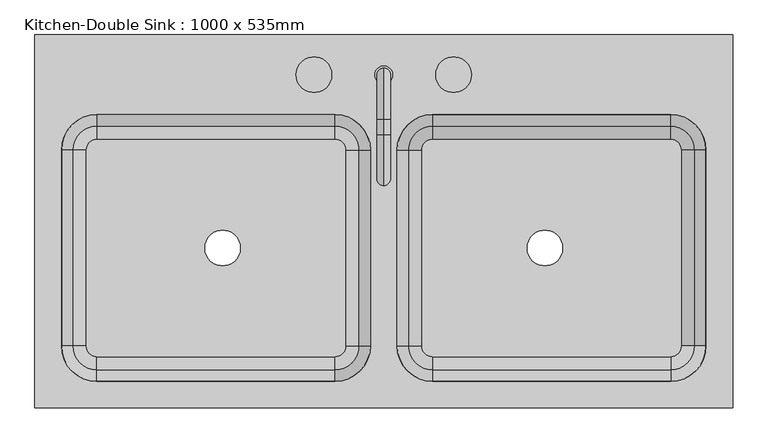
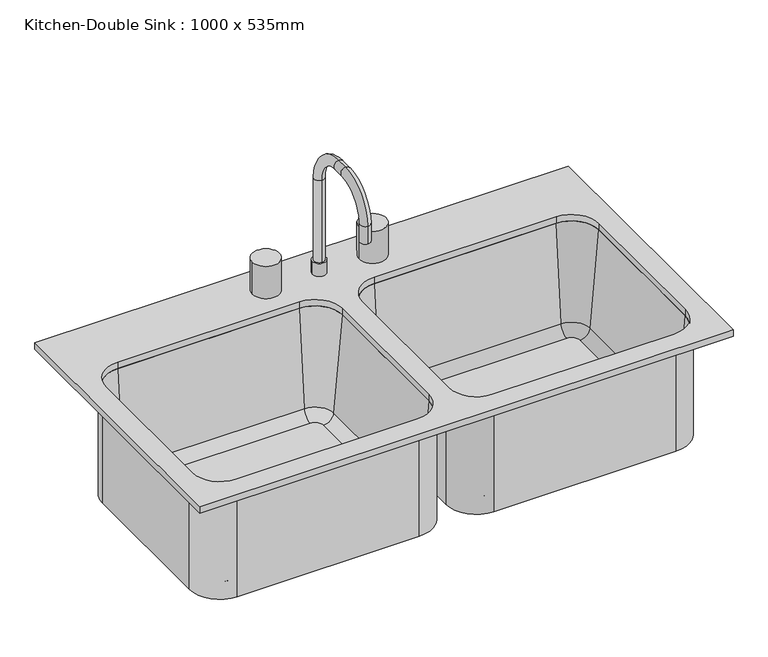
"""IFC4 building model written with IfcOpenShell, lengths in millimetres: flow terminal geometry, Kitchen-Double Sink : 1000 x 535mm."""

from ifc_helpers import new_model, si_unit, point, frame, frame_2d, origin, place, context, project, spatial, polyline, circle_curve, ellipse_curve, trimmed, segment, composite_curve, outline, extrude, source, transform, mapped, element, save
from ifc_brep_helpers import plane_surface, cylinder_surface, revolved_surface, advanced_brep


def kitchen_double_sink_1000_x_535mm_b63c062c(model_context):
    return source(origin(), model_context, "Body", "SolidModel", [
        advanced_brep(
        [(426.7892341, 120.0338193, 555.625), (85.5392406, 120.0338193, 555.625), (70.2508224, 104.7454011, 555.625), (70.2508224, -176.2545989, 555.625), (85.5392406, -191.5430171, 555.625), (426.7892406, -191.5430171, 555.625), (442.0776588, -176.2545989, 555.625), (442.0776588, 104.7454011, 555.625), (221.2392406, -35.7545989, 555.625), (272.0392406, -35.7545989, 555.625), (28.3892406, 104.7454011, 546.1), (85.5392406, 161.8954011, 546.1), (426.7892406, 161.8954011, 546.1), (483.9392406, 104.7454011, 546.1), (483.9392406, -176.2545989, 546.1), (426.7892406, -233.4045989, 546.1), (85.5392406, -233.4045989, 546.1), (28.3892406, -176.2545989, 546.1), (221.2392406, -35.7545989, 546.1), (272.0392406, -35.7545989, 546.1), (34.7392406, 104.7454011, 762.0), (85.5392406, 155.5454011, 762.0), (85.5392406, 161.8954011, 762.0), (28.3892406, 104.7454011, 762.0), (51.2733134, 104.7454011, 573.0146831), (85.5392406, 139.0113283, 573.0146831), (28.3892406, -176.2545989, 762.0), (34.7392406, -176.2545989, 762.0), (51.2733134, -176.2545989, 573.0146831), (85.5392406, -233.4045989, 762.0), (85.5392406, -227.0545989, 762.0), (85.5392406, -210.5205261, 573.0146831), (426.7892406, -233.4045989, 762.0), (426.7892406, -227.0545989, 762.0), (426.7892406, -210.5205261, 573.0146831), (483.9392406, -176.2545989, 762.0), (477.5892406, -176.2545989, 762.0), (461.0551678, -176.2545989, 573.0146831), (483.9392406, 104.7454011, 762.0), (477.5892406, 104.7454011, 762.0), (461.0551678, 104.7454011, 573.0146831), (426.7892406, 161.8954011, 762.0), (426.7892406, 155.5454011, 762.0), (426.7892406, 139.0113283, 573.0146831)],
        [
            (0, 1),
            (1, 2, circle_curve(frame((85.5392406, 104.7454011, 555.625), z_axis=(0.0, 0.0, 1.0), x_axis=(0.0, 1.0, 0.0)), 15.2884182)),
            (2, 3),
            (3, 4, circle_curve(frame((85.5392406, -176.2545989, 555.625), z_axis=(0.0, 0.0, 1.0), x_axis=(-1.0, 0.0, 0.0)), 15.2884182)),
            (4, 5),
            (5, 6, circle_curve(frame((426.7892406, -176.2545989, 555.625), z_axis=(0.0, 0.0, 1.0), x_axis=(0.0, -1.0, 0.0)), 15.2884182)),
            (6, 7),
            (7, 0, circle_curve(frame((426.7892406, 104.7454011, 555.625), z_axis=(0.0, 0.0, 1.0), x_axis=(1.0, 0.0, 0.0)), 15.2884182)),
            (8, 9, circle_curve(frame((246.6392406, -35.7545989, 555.625), z_axis=(0.0, 0.0, -1.0), x_axis=(1.0, 0.0, 0.0)), 25.4)),
            (9, 8, circle_curve(frame((246.6392406, -35.7545989, 555.625), z_axis=(0.0, 0.0, -1.0), x_axis=(1.0, 0.0, 0.0)), 25.4)),
            (10, 11, circle_curve(frame((85.5392406, 104.7454011, 546.1), z_axis=(0.0, 0.0, -1.0), x_axis=(0.0, 1.0, 0.0)), 57.15)),
            (11, 12),
            (12, 13, circle_curve(frame((426.7892406, 104.7454011, 546.1), z_axis=(0.0, 0.0, -1.0), x_axis=(1.0, 0.0, 0.0)), 57.15)),
            (13, 14),
            (14, 15, circle_curve(frame((426.7892406, -176.2545989, 546.1), z_axis=(0.0, 0.0, -1.0), x_axis=(0.0, -1.0, 0.0)), 57.15)),
            (15, 16),
            (16, 17, circle_curve(frame((85.5392406, -176.2545989, 546.1), z_axis=(0.0, 0.0, -1.0), x_axis=(-1.0, 0.0, 0.0)), 57.15)),
            (17, 10),
            (18, 19, circle_curve(frame((246.6392406, -35.7545989, 546.1), z_axis=(0.0, 0.0, 1.0), x_axis=(1.0, 0.0, 0.0)), 25.4)),
            (19, 18, circle_curve(frame((246.6392406, -35.7545989, 546.1), z_axis=(0.0, 0.0, 1.0), x_axis=(1.0, 0.0, 0.0)), 25.4)),
            (8, 18),
            (19, 9),
            (20, 21, circle_curve(frame((85.5392406, 104.7454011, 762.0), z_axis=(0.0, 0.0, -1.0), x_axis=(0.0, 1.0, 0.0)), 50.8)),
            (21, 22),
            (22, 23, circle_curve(frame((85.5392406, 104.7454011, 762.0), z_axis=(0.0, 0.0, 1.0), x_axis=(0.0, 1.0, 0.0)), 57.15)),
            (23, 20),
            (20, 24),
            (24, 25, circle_curve(frame((85.5392406, 104.7454011, 573.0146831), z_axis=(0.0, 0.0, -1.0), x_axis=(0.0, 1.0, 0.0)), 34.2659272)),
            (25, 21),
            (24, 2, circle_curve(frame((70.2508224, 104.7454011, 574.675), z_axis=(0.0, -1.0, 0.0), x_axis=(1.0, 0.0, 0.0)), 19.05)),
            (1, 25, circle_curve(frame((85.5392406, 120.0338193, 574.675), z_axis=(1.0, 0.0, 0.0), x_axis=(0.0, -1.0, 0.0)), 19.05)),
            (22, 11),
            (10, 23),
            (23, 26),
            (26, 27),
            (27, 20),
            (27, 28),
            (28, 24),
            (28, 3, circle_curve(frame((70.2508224, -176.2545989, 574.675), z_axis=(0.0, -1.0, 0.0), x_axis=(1.0, 0.0, 0.0)), 19.05)),
            (17, 26),
            (26, 29, circle_curve(frame((85.5392406, -176.2545989, 762.0), z_axis=(0.0, 0.0, 1.0), x_axis=(-1.0, 0.0, 0.0)), 57.15)),
            (29, 30),
            (30, 27, circle_curve(frame((85.5392406, -176.2545989, 762.0), z_axis=(0.0, 0.0, -1.0), x_axis=(-1.0, 0.0, 0.0)), 50.8)),
            (30, 31),
            (31, 28, circle_curve(frame((85.5392406, -176.2545989, 573.0146831), z_axis=(0.0, 0.0, -1.0), x_axis=(-1.0, 0.0, 0.0)), 34.2659272)),
            (31, 4, circle_curve(frame((85.5392406, -191.5430171, 574.675), z_axis=(1.0, 0.0, 0.0), x_axis=(0.0, 1.0, 0.0)), 19.05)),
            (16, 29),
            (29, 32),
            (32, 33),
            (33, 30),
            (33, 34),
            (34, 31),
            (34, 5, circle_curve(frame((426.7892406, -191.5430171, 574.675), z_axis=(1.0, 0.0, 0.0), x_axis=(0.0, 1.0, 0.0)), 19.05)),
            (15, 32),
            (32, 35, circle_curve(frame((426.7892406, -176.2545989, 762.0), z_axis=(0.0, 0.0, 1.0), x_axis=(0.0, -1.0, 0.0)), 57.15)),
            (35, 36),
            (36, 33, circle_curve(frame((426.7892406, -176.2545989, 762.0), z_axis=(0.0, 0.0, -1.0), x_axis=(0.0, -1.0, 0.0)), 50.8)),
            (36, 37),
            (37, 34, circle_curve(frame((426.7892406, -176.2545989, 573.0146831), z_axis=(0.0, 0.0, -1.0), x_axis=(0.0, -1.0, 0.0)), 34.2659272)),
            (37, 6, circle_curve(frame((442.0776588, -176.2545989, 574.675), z_axis=(0.0, 1.0, 0.0), x_axis=(-1.0, 0.0, 0.0)), 19.05)),
            (14, 35),
            (35, 38),
            (38, 39),
            (39, 36),
            (39, 40),
            (40, 37),
            (40, 7, circle_curve(frame((442.0776588, 104.7454011, 574.675), z_axis=(0.0, 1.0, 0.0), x_axis=(-1.0, 0.0, 0.0)), 19.05)),
            (13, 38),
            (38, 41, circle_curve(frame((426.7892406, 104.7454011, 762.0), z_axis=(0.0, 0.0, 1.0), x_axis=(1.0, 0.0, 0.0)), 57.15)),
            (41, 42),
            (42, 39, circle_curve(frame((426.7892406, 104.7454011, 762.0), z_axis=(0.0, 0.0, -1.0), x_axis=(1.0, 0.0, 0.0)), 50.8)),
            (42, 43),
            (43, 40, circle_curve(frame((426.7892406, 104.7454011, 573.0146831), z_axis=(0.0, 0.0, -1.0), x_axis=(1.0, 0.0, 0.0)), 34.2659272)),
            (43, 0, circle_curve(frame((426.7892406, 120.0338193, 574.675), z_axis=(-1.0, 0.0, 0.0), x_axis=(0.0, -1.0, 0.0)), 19.05)),
            (12, 41),
            (21, 42),
            (41, 22),
            (25, 43),
        ],
        [
            plane_surface(frame((85.5392406, 120.0338193, 555.625), z_axis=(0.0, 0.0, 1.0), x_axis=(-1.0, 0.0, 0.0))),
            plane_surface(frame((85.5392406, 120.0338193, 546.1), z_axis=(0.0, 0.0, -1.0), x_axis=(1.0, 0.0, 0.0))),
            revolved_surface(polyline([(272.03924059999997, -35.7545989, 546.1), (272.03924059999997, -35.7545989, 555.625)]), (246.6392406, -35.7545989, 0.0), (0.0, 0.0, -1.0)),
            plane_surface(frame((85.5392406, 104.7454011, 762.0), z_axis=(0.0, 0.0, 1.0), x_axis=(0.0, 1.0, 0.0))),
            revolved_surface(polyline([(85.5392406, 155.5454011, 762.0), (85.5392406, 139.0113283, 573.0146831)]), (85.5392406, 104.7454011, 0.0), (0.0, 0.0, 1.0)),
            revolved_surface(trimmed(ellipse_curve(frame((85.5392406, 120.0338193, 574.675), z_axis=(-1.0, 0.0, 0.0), x_axis=(0.0, -1.0, 0.0)), 19.05, 19.05), [point((85.5392406, 139.0113283, 573.0146831))], [point((85.5392406, 120.0338193, 555.625))], True, "CARTESIAN"), (85.5392406, 104.7454011, 0.0), (0.0, 0.0, 1.0)),
            cylinder_surface(frame((85.5392406, 104.7454011, 0.0), z_axis=(0.0, 0.0, 1.0), x_axis=(0.0, 1.0, 0.0)), 57.15),
            plane_surface(frame((28.3892406, 104.7454011, 762.0), z_axis=(0.0, 0.0, 1.0), x_axis=(0.0, -1.0, 0.0))),
            plane_surface(frame((34.7392406, 104.7454011, 762.0), z_axis=(0.996194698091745, 0.0, 0.08715574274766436), x_axis=(0.0, -1.0, 0.0))),
            revolved_surface(polyline([(89.3008224, -176.25459890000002, 574.675), (89.3008224, 104.7454011, 574.675)]), (70.2508224, 104.7454011, 574.675), (0.0, -1.0, 0.0)),
            plane_surface(frame((28.3892406, 104.7454011, 546.1), z_axis=(-1.0, 0.0, 0.0), x_axis=(0.0, -1.0, 0.0))),
            plane_surface(frame((85.5392406, -176.2545989, 762.0), z_axis=(0.0, 0.0, 1.0), x_axis=(-1.0, 0.0, 0.0))),
            revolved_surface(polyline([(34.7392406, -176.2545989, 762.0), (51.2733134, -176.2545989, 573.0146831)]), (85.5392406, -176.2545989, 0.0), (0.0, 0.0, 1.0)),
            revolved_surface(trimmed(ellipse_curve(frame((70.2508224, -176.2545989, 574.675), z_axis=(0.0, -1.0, 0.0), x_axis=(1.0, 0.0, 0.0)), 19.05, 19.05), [point((51.2733134, -176.2545989, 573.0146831))], [point((70.2508224, -176.2545989, 555.625))], True, "CARTESIAN"), (85.5392406, -176.2545989, 0.0), (0.0, 0.0, 1.0)),
            cylinder_surface(frame((85.5392406, -176.2545989, 0.0), z_axis=(0.0, 0.0, 1.0), x_axis=(-1.0, 0.0, 0.0)), 57.15),
            plane_surface(frame((85.5392406, -233.4045989, 762.0), z_axis=(0.0, 0.0, 1.0), x_axis=(1.0, 0.0, 0.0))),
            plane_surface(frame((85.5392406, -227.0545989, 762.0), z_axis=(0.0, 0.996194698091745, 0.08715574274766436), x_axis=(1.0, 0.0, 0.0))),
            revolved_surface(polyline([(426.78924059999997, -172.49301709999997, 574.675), (85.5392406, -172.49301709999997, 574.675)]), (85.5392406, -191.5430171, 574.675), (1.0, 0.0, 0.0)),
            plane_surface(frame((85.5392406, -233.4045989, 546.1), z_axis=(0.0, -1.0, 0.0), x_axis=(1.0, 0.0, 0.0))),
            plane_surface(frame((426.7892406, -176.2545989, 762.0), z_axis=(0.0, 0.0, 1.0), x_axis=(0.0, -1.0, 0.0))),
            revolved_surface(polyline([(426.7892406, -227.0545989, 762.0), (426.7892406, -210.5205261, 573.0146831)]), (426.7892406, -176.2545989, 0.0), (0.0, 0.0, 1.0)),
            revolved_surface(trimmed(ellipse_curve(frame((426.7892406, -191.5430171, 574.675), z_axis=(1.0, 0.0, 0.0), x_axis=(0.0, 1.0, 0.0)), 19.05, 19.05), [point((426.7892406, -210.5205261, 573.0146831))], [point((426.7892406, -191.5430171, 555.625))], True, "CARTESIAN"), (426.7892406, -176.2545989, 0.0), (0.0, 0.0, 1.0)),
            cylinder_surface(frame((426.7892406, -176.2545989, 0.0), z_axis=(0.0, 0.0, 1.0), x_axis=(0.0, -1.0, 0.0)), 57.15),
            plane_surface(frame((483.9392406, -176.2545989, 762.0), z_axis=(0.0, 0.0, 1.0), x_axis=(0.0, 1.0, 0.0))),
            plane_surface(frame((477.5892406, -176.2545989, 762.0), z_axis=(-0.996194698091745, 0.0, 0.08715574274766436), x_axis=(0.0, 1.0, 0.0))),
            revolved_surface(polyline([(423.0276588, 104.74540110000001, 574.675), (423.0276588, -176.2545989, 574.675)]), (442.0776588, -176.2545989, 574.675), (0.0, 1.0, 0.0)),
            plane_surface(frame((483.9392406, -176.2545989, 546.1), z_axis=(1.0, 0.0, 0.0), x_axis=(0.0, 1.0, 0.0))),
            plane_surface(frame((426.7892406, 104.7454011, 762.0), z_axis=(0.0, 0.0, 1.0), x_axis=(1.0, 0.0, 0.0))),
            revolved_surface(polyline([(477.5892406, 104.7454011, 762.0), (461.0551678, 104.7454011, 573.0146831)]), (426.7892406, 104.7454011, 0.0), (0.0, 0.0, 1.0)),
            revolved_surface(trimmed(ellipse_curve(frame((442.0776588, 104.7454011, 574.675), z_axis=(0.0, 1.0, 0.0), x_axis=(-1.0, 0.0, 0.0)), 19.05, 19.05), [point((461.0551678, 104.7454011, 573.0146831))], [point((442.0776588, 104.7454011, 555.625))], True, "CARTESIAN"), (426.7892406, 104.7454011, 0.0), (0.0, 0.0, 1.0)),
            cylinder_surface(frame((426.7892406, 104.7454011, 0.0), z_axis=(0.0, 0.0, 1.0), x_axis=(1.0, 0.0, 0.0)), 57.15),
            plane_surface(frame((426.7892406, 161.8954011, 762.0), z_axis=(0.0, 0.0, 1.0), x_axis=(-1.0, 0.0, 0.0))),
            plane_surface(frame((426.7892406, 155.5454011, 762.0), z_axis=(0.0, -0.996194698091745, 0.08715574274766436), x_axis=(-1.0, 0.0, 0.0))),
            revolved_surface(polyline([(85.53924060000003, 100.98381930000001, 574.675), (426.7892406, 100.98381930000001, 574.675)]), (426.7892406, 120.0338193, 574.675), (-1.0, 0.0, 0.0)),
            plane_surface(frame((426.7892406, 161.8954011, 546.1), z_axis=(0.0, 1.0, 0.0), x_axis=(-1.0, 0.0, 0.0))),
        ],
        [
            (0, [[1, 2, 3, 4, 5, 6, 7, 8], [9, 10]]),
            (1, [[11, 12, 13, 14, 15, 16, 17, 18], [19, 20]]),
            (2, [[-9, 21, -20, 22]]),
            (2, [[-10, -22, -19, -21]]),
            (3, [[23, 24, 25, 26]]),
            (4, [[-23, 27, 28, 29]]),
            (5, [[-28, 30, -2, 31]]),
            (6, [[-25, 32, -11, 33]]),
            (7, [[-26, 34, 35, 36]]),
            (8, [[-27, -36, 37, 38]]),
            (9, [[-30, -38, 39, -3]]),
            (10, [[-33, -18, 40, -34]]),
            (11, [[-35, 41, 42, 43]]),
            (12, [[-37, -43, 44, 45]]),
            (13, [[-39, -45, 46, -4]]),
            (14, [[-40, -17, 47, -41]]),
            (15, [[-42, 48, 49, 50]]),
            (16, [[-44, -50, 51, 52]]),
            (17, [[-46, -52, 53, -5]]),
            (18, [[-47, -16, 54, -48]]),
            (19, [[-49, 55, 56, 57]]),
            (20, [[-51, -57, 58, 59]]),
            (21, [[-53, -59, 60, -6]]),
            (22, [[-54, -15, 61, -55]]),
            (23, [[-56, 62, 63, 64]]),
            (24, [[-58, -64, 65, 66]]),
            (25, [[-60, -66, 67, -7]]),
            (26, [[-61, -14, 68, -62]]),
            (27, [[-63, 69, 70, 71]]),
            (28, [[-65, -71, 72, 73]]),
            (29, [[-67, -73, 74, -8]]),
            (30, [[-68, -13, 75, -69]]),
            (31, [[-24, 76, -70, 77]]),
            (32, [[-29, 78, -72, -76]]),
            (33, [[-31, -1, -74, -78]]),
            (34, [[-32, -77, -75, -12]]),
        ],
    ),
        advanced_brep(
        [(-38.8723412, 104.7454011, 555.625), (-54.1607594, 120.0338193, 555.625), (-395.4107594, 120.0338193, 555.625), (-410.6991776, 104.7454011, 555.625), (-410.6991776, -176.2545989, 555.625), (-395.4107594, -191.5430171, 555.625), (-54.1607594, -191.5430171, 555.625), (-38.8723412, -176.2545989, 555.625), (-240.6607594, -35.7545989, 555.625), (-189.8607594, -35.7545989, 555.625), (-452.5607594, 104.7454011, 546.1), (-395.4107594, 161.8954011, 546.1), (-54.1607594, 161.8954011, 546.1), (2.9892406, 104.7454011, 546.1), (2.9892406, -176.2545989, 546.1), (-54.1607594, -233.4045989, 546.1), (-395.4107594, -233.4045989, 546.1), (-452.5607594, -176.2545989, 546.1), (-240.6607594, -35.7545989, 546.1), (-189.8607594, -35.7545989, 546.1), (-54.1607594, 161.8954011, 762.0), (2.9892406, 104.7454011, 762.0), (-19.8948322, 104.7454011, 573.0146831), (-54.1607594, 139.0113283, 573.0146831), (-3.3607594, 104.7454011, 762.0), (-54.1607594, 155.5454011, 762.0), (2.9892406, -176.2545989, 762.0), (-19.8948322, -176.2545989, 573.0146831), (-3.3607594, -176.2545989, 762.0), (-54.1607594, -233.4045989, 762.0), (-54.1607594, -210.5205261, 573.0146831), (-54.1607594, -227.0545989, 762.0), (-395.4107594, -233.4045989, 762.0), (-395.4107594, -210.5205261, 573.0146831), (-395.4107594, -227.0545989, 762.0), (-452.5607594, -176.2545989, 762.0), (-429.6766866, -176.2545989, 573.0146831), (-446.2107594, -176.2545989, 762.0), (-452.5607594, 104.7454011, 762.0), (-429.6766866, 104.7454011, 573.0146831), (-446.2107594, 104.7454011, 762.0), (-395.4107594, 161.8954011, 762.0), (-395.4107594, 139.0113283, 573.0146831), (-395.4107594, 155.5454011, 762.0)],
        [
            (0, 1, circle_curve(frame((-54.1607594, 104.7454011, 555.625), z_axis=(0.0, 0.0, 1.0), x_axis=(0.0, 1.0, 0.0)), 15.2884182)),
            (1, 2),
            (2, 3, circle_curve(frame((-395.4107594, 104.7454011, 555.625), z_axis=(0.0, 0.0, 1.0), x_axis=(-1.0, 0.0, 0.0)), 15.2884182)),
            (3, 4),
            (4, 5, circle_curve(frame((-395.4107594, -176.2545989, 555.625), z_axis=(0.0, 0.0, 1.0), x_axis=(0.0, -1.0, 0.0)), 15.2884182)),
            (5, 6),
            (6, 7, circle_curve(frame((-54.1607594, -176.2545989, 555.625), z_axis=(0.0, 0.0, 1.0), x_axis=(1.0, 0.0, 0.0)), 15.2884182)),
            (7, 0),
            (8, 9, circle_curve(frame((-215.2607594, -35.7545989, 555.625), z_axis=(0.0, 0.0, -1.0), x_axis=(1.0, 0.0, 0.0)), 25.4)),
            (9, 8, circle_curve(frame((-215.2607594, -35.7545989, 555.625), z_axis=(0.0, 0.0, -1.0), x_axis=(1.0, 0.0, 0.0)), 25.4)),
            (10, 11, circle_curve(frame((-395.4107594, 104.7454011, 546.1), z_axis=(0.0, 0.0, -1.0), x_axis=(-1.0, 0.0, 0.0)), 57.15)),
            (11, 12),
            (12, 13, circle_curve(frame((-54.1607594, 104.7454011, 546.1), z_axis=(0.0, 0.0, -1.0), x_axis=(0.0, 1.0, 0.0)), 57.15)),
            (13, 14),
            (14, 15, circle_curve(frame((-54.1607594, -176.2545989, 546.1), z_axis=(0.0, 0.0, -1.0), x_axis=(1.0, 0.0, 0.0)), 57.15)),
            (15, 16),
            (16, 17, circle_curve(frame((-395.4107594, -176.2545989, 546.1), z_axis=(0.0, 0.0, -1.0), x_axis=(0.0, -1.0, 0.0)), 57.15)),
            (17, 10),
            (18, 19, circle_curve(frame((-215.2607594, -35.7545989, 546.1), z_axis=(0.0, 0.0, 1.0), x_axis=(1.0, 0.0, 0.0)), 25.4)),
            (19, 18, circle_curve(frame((-215.2607594, -35.7545989, 546.1), z_axis=(0.0, 0.0, 1.0), x_axis=(1.0, 0.0, 0.0)), 25.4)),
            (8, 18),
            (19, 9),
            (12, 20),
            (20, 21, circle_curve(frame((-54.1607594, 104.7454011, 762.0), z_axis=(0.0, 0.0, -1.0), x_axis=(0.0, 1.0, 0.0)), 57.15)),
            (21, 13),
            (0, 22, circle_curve(frame((-38.8723412, 104.7454011, 574.675), z_axis=(0.0, -1.0, 0.0), x_axis=(1.0, 0.0, 0.0)), 19.05)),
            (22, 23, circle_curve(frame((-54.1607594, 104.7454011, 573.0146831), z_axis=(0.0, 0.0, 1.0), x_axis=(0.0, 1.0, 0.0)), 34.2659272)),
            (23, 1, circle_curve(frame((-54.1607594, 120.0338193, 574.675), z_axis=(-1.0, 0.0, 0.0), x_axis=(0.0, 1.0, 0.0)), 19.05)),
            (22, 24),
            (24, 25, circle_curve(frame((-54.1607594, 104.7454011, 762.0), z_axis=(0.0, 0.0, 1.0), x_axis=(0.0, 1.0, 0.0)), 50.8)),
            (25, 23),
            (20, 25),
            (24, 21),
            (21, 26),
            (26, 14),
            (7, 27, circle_curve(frame((-38.8723412, -176.2545989, 574.675), z_axis=(0.0, -1.0, 0.0), x_axis=(1.0, 0.0, 0.0)), 19.05)),
            (27, 22),
            (27, 28),
            (28, 24),
            (28, 26),
            (26, 29, circle_curve(frame((-54.1607594, -176.2545989, 762.0), z_axis=(0.0, 0.0, -1.0), x_axis=(1.0, 0.0, 0.0)), 57.15)),
            (29, 15),
            (6, 30, circle_curve(frame((-54.1607594, -191.5430171, 574.675), z_axis=(-1.0, 0.0, 0.0), x_axis=(0.0, -1.0, 0.0)), 19.05)),
            (30, 27, circle_curve(frame((-54.1607594, -176.2545989, 573.0146831), z_axis=(0.0, 0.0, 1.0), x_axis=(1.0, 0.0, 0.0)), 34.2659272)),
            (30, 31),
            (31, 28, circle_curve(frame((-54.1607594, -176.2545989, 762.0), z_axis=(0.0, 0.0, 1.0), x_axis=(1.0, 0.0, 0.0)), 50.8)),
            (31, 29),
            (29, 32),
            (32, 16),
            (5, 33, circle_curve(frame((-395.4107594, -191.5430171, 574.675), z_axis=(-1.0, 0.0, 0.0), x_axis=(0.0, -1.0, 0.0)), 19.05)),
            (33, 30),
            (33, 34),
            (34, 31),
            (34, 32),
            (32, 35, circle_curve(frame((-395.4107594, -176.2545989, 762.0), z_axis=(0.0, 0.0, -1.0), x_axis=(0.0, -1.0, 0.0)), 57.15)),
            (35, 17),
            (4, 36, circle_curve(frame((-410.6991776, -176.2545989, 574.675), z_axis=(0.0, 1.0, 0.0), x_axis=(-1.0, 0.0, 0.0)), 19.05)),
            (36, 33, circle_curve(frame((-395.4107594, -176.2545989, 573.0146831), z_axis=(0.0, 0.0, 1.0), x_axis=(0.0, -1.0, 0.0)), 34.2659272)),
            (36, 37),
            (37, 34, circle_curve(frame((-395.4107594, -176.2545989, 762.0), z_axis=(0.0, 0.0, 1.0), x_axis=(0.0, -1.0, 0.0)), 50.8)),
            (37, 35),
            (35, 38),
            (38, 10),
            (3, 39, circle_curve(frame((-410.6991776, 104.7454011, 574.675), z_axis=(0.0, 1.0, 0.0), x_axis=(-1.0, 0.0, 0.0)), 19.05)),
            (39, 36),
            (39, 40),
            (40, 37),
            (40, 38),
            (38, 41, circle_curve(frame((-395.4107594, 104.7454011, 762.0), z_axis=(0.0, 0.0, -1.0), x_axis=(-1.0, 0.0, 0.0)), 57.15)),
            (41, 11),
            (2, 42, circle_curve(frame((-395.4107594, 120.0338193, 574.675), z_axis=(1.0, 0.0, 0.0), x_axis=(0.0, 1.0, 0.0)), 19.05)),
            (42, 39, circle_curve(frame((-395.4107594, 104.7454011, 573.0146831), z_axis=(0.0, 0.0, 1.0), x_axis=(-1.0, 0.0, 0.0)), 34.2659272)),
            (42, 43),
            (43, 40, circle_curve(frame((-395.4107594, 104.7454011, 762.0), z_axis=(0.0, 0.0, 1.0), x_axis=(-1.0, 0.0, 0.0)), 50.8)),
            (43, 41),
            (41, 20),
            (23, 42),
            (25, 43),
        ],
        [
            plane_surface(frame((-395.4107594, 117.4454011, 555.625), z_axis=(0.0, 0.0, 1.0), x_axis=(-1.0, 0.0, 0.0))),
            plane_surface(frame((-395.4107594, 117.4454011, 546.1), z_axis=(0.0, 0.0, -1.0), x_axis=(1.0, 0.0, 0.0))),
            revolved_surface(polyline([(-189.8607594, -35.7545989, 546.1), (-189.8607594, -35.7545989, 555.625)]), (-215.2607594, -35.7545989, 0.0), (0.0, 0.0, -1.0)),
            cylinder_surface(frame((-54.1607594, 104.7454011, 0.0), z_axis=(0.0, 0.0, -1.0), x_axis=(0.0, 1.0, 0.0)), 57.15),
            revolved_surface(trimmed(ellipse_curve(frame((-54.1607594, 120.0338193, 574.675), z_axis=(1.0, 0.0, 0.0), x_axis=(0.0, 1.0, 0.0)), 19.05, 19.05), [point((-54.1607594, 120.0338193, 555.625))], [point((-54.1607594, 139.0113283, 573.0146831))], True, "CARTESIAN"), (-54.1607594, 104.7454011, 0.0), (0.0, 0.0, -1.0)),
            revolved_surface(polyline([(-54.1607594, 139.0113283, 573.0146831), (-54.1607594, 155.5454011, 762.0)]), (-54.1607594, 104.7454011, 0.0), (0.0, 0.0, -1.0)),
            plane_surface(frame((-54.1607594, 104.7454011, 762.0), z_axis=(0.0, 0.0, 1.0), x_axis=(0.0, 1.0, 0.0))),
            plane_surface(frame((2.9892406, 104.7454011, 762.0), z_axis=(1.0, 0.0, 0.0), x_axis=(0.0, -1.0, 0.0))),
            revolved_surface(polyline([(-19.8223412, -176.25459890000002, 574.675), (-19.8223412, 104.7454011, 574.675)]), (-38.8723412, 104.7454011, 574.675), (0.0, -1.0, 0.0)),
            plane_surface(frame((-19.8948322, 104.7454011, 573.0146831), z_axis=(-0.996194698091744, 0.0, 0.08715574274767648), x_axis=(0.0, -1.0, 0.0))),
            plane_surface(frame((-3.3607594, 104.7454011, 762.0), z_axis=(0.0, 0.0, 1.0), x_axis=(0.0, -1.0, 0.0))),
            cylinder_surface(frame((-54.1607594, -176.2545989, 0.0), z_axis=(0.0, 0.0, -1.0), x_axis=(1.0, 0.0, 0.0)), 57.15),
            revolved_surface(trimmed(ellipse_curve(frame((-38.8723412, -176.2545989, 574.675), z_axis=(0.0, -1.0, 0.0), x_axis=(1.0, 0.0, 0.0)), 19.05, 19.05), [point((-38.8723412, -176.2545989, 555.625))], [point((-19.8948322, -176.2545989, 573.0146831))], True, "CARTESIAN"), (-54.1607594, -176.2545989, 0.0), (0.0, 0.0, -1.0)),
            revolved_surface(polyline([(-19.8948322, -176.2545989, 573.0146831), (-3.3607594, -176.2545989, 762.0)]), (-54.1607594, -176.2545989, 0.0), (0.0, 0.0, -1.0)),
            plane_surface(frame((-54.1607594, -176.2545989, 762.0), z_axis=(0.0, 0.0, 1.0), x_axis=(1.0, 0.0, 0.0))),
            plane_surface(frame((-54.1607594, -233.4045989, 762.0), z_axis=(0.0, -1.0, 0.0), x_axis=(-1.0, 0.0, 0.0))),
            revolved_surface(polyline([(-395.4107594, -210.5930171, 574.675), (-54.1607594, -210.5930171, 574.675)]), (-54.1607594, -191.5430171, 574.675), (-1.0, 0.0, 0.0)),
            plane_surface(frame((-54.1607594, -210.5205261, 573.0146831), z_axis=(0.0, 0.996194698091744, 0.08715574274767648), x_axis=(-1.0, 0.0, 0.0))),
            plane_surface(frame((-54.1607594, -227.0545989, 762.0), z_axis=(0.0, 0.0, 1.0), x_axis=(-1.0, 0.0, 0.0))),
            cylinder_surface(frame((-395.4107594, -176.2545989, 0.0), z_axis=(0.0, 0.0, -1.0), x_axis=(0.0, -1.0, 0.0)), 57.15),
            revolved_surface(trimmed(ellipse_curve(frame((-395.4107594, -191.5430171, 574.675), z_axis=(-1.0, 0.0, 0.0), x_axis=(0.0, -1.0, 0.0)), 19.05, 19.05), [point((-395.4107594, -191.5430171, 555.625))], [point((-395.4107594, -210.5205261, 573.0146831))], True, "CARTESIAN"), (-395.4107594, -176.2545989, 0.0), (0.0, 0.0, -1.0)),
            revolved_surface(polyline([(-395.4107594, -210.5205261, 573.0146831), (-395.4107594, -227.0545989, 762.0)]), (-395.4107594, -176.2545989, 0.0), (0.0, 0.0, -1.0)),
            plane_surface(frame((-395.4107594, -176.2545989, 762.0), z_axis=(0.0, 0.0, 1.0), x_axis=(0.0, -1.0, 0.0))),
            plane_surface(frame((-452.5607594, -176.2545989, 762.0), z_axis=(-1.0, 0.0, 0.0), x_axis=(0.0, 1.0, 0.0))),
            revolved_surface(polyline([(-429.7491776, 104.74540110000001, 574.675), (-429.7491776, -176.2545989, 574.675)]), (-410.6991776, -176.2545989, 574.675), (0.0, 1.0, 0.0)),
            plane_surface(frame((-429.6766866, -176.2545989, 573.0146831), z_axis=(0.996194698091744, 0.0, 0.08715574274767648), x_axis=(0.0, 1.0, 0.0))),
            plane_surface(frame((-446.2107594, -176.2545989, 762.0), z_axis=(0.0, 0.0, 1.0), x_axis=(0.0, 1.0, 0.0))),
            cylinder_surface(frame((-395.4107594, 104.7454011, 0.0), z_axis=(0.0, 0.0, -1.0), x_axis=(-1.0, 0.0, 0.0)), 57.15),
            revolved_surface(trimmed(ellipse_curve(frame((-410.6991776, 104.7454011, 574.675), z_axis=(0.0, 1.0, 0.0), x_axis=(-1.0, 0.0, 0.0)), 19.05, 19.05), [point((-410.6991776, 104.7454011, 555.625))], [point((-429.6766866, 104.7454011, 573.0146831))], True, "CARTESIAN"), (-395.4107594, 104.7454011, 0.0), (0.0, 0.0, -1.0)),
            revolved_surface(polyline([(-429.6766866, 104.7454011, 573.0146831), (-446.2107594, 104.7454011, 762.0)]), (-395.4107594, 104.7454011, 0.0), (0.0, 0.0, -1.0)),
            plane_surface(frame((-395.4107594, 104.7454011, 762.0), z_axis=(0.0, 0.0, 1.0), x_axis=(-1.0, 0.0, 0.0))),
            plane_surface(frame((-395.4107594, 161.8954011, 762.0), z_axis=(0.0, 1.0, 0.0), x_axis=(1.0, 0.0, 0.0))),
            revolved_surface(polyline([(-54.16075940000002, 139.08381930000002, 574.675), (-395.4107594, 139.08381930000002, 574.675)]), (-395.4107594, 120.0338193, 574.675), (1.0, 0.0, 0.0)),
            plane_surface(frame((-395.4107594, 139.0113283, 573.0146831), z_axis=(0.0, -0.996194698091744, 0.08715574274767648), x_axis=(1.0, 0.0, 0.0))),
            plane_surface(frame((-395.4107594, 155.5454011, 762.0), z_axis=(0.0, 0.0, 1.0), x_axis=(1.0, 0.0, 0.0))),
        ],
        [
            (0, [[1, 2, 3, 4, 5, 6, 7, 8], [9, 10]]),
            (1, [[11, 12, 13, 14, 15, 16, 17, 18], [19, 20]]),
            (2, [[-9, 21, -20, 22]]),
            (2, [[-10, -22, -19, -21]]),
            (3, [[-13, 23, 24, 25]]),
            (4, [[-1, 26, 27, 28]]),
            (5, [[-27, 29, 30, 31]]),
            (6, [[-24, 32, -30, 33]]),
            (7, [[-25, 34, 35, -14]]),
            (8, [[-26, -8, 36, 37]]),
            (9, [[-29, -37, 38, 39]]),
            (10, [[-33, -39, 40, -34]]),
            (11, [[-35, 41, 42, -15]]),
            (12, [[-36, -7, 43, 44]]),
            (13, [[-38, -44, 45, 46]]),
            (14, [[-40, -46, 47, -41]]),
            (15, [[-42, 48, 49, -16]]),
            (16, [[-43, -6, 50, 51]]),
            (17, [[-45, -51, 52, 53]]),
            (18, [[-47, -53, 54, -48]]),
            (19, [[-49, 55, 56, -17]]),
            (20, [[-50, -5, 57, 58]]),
            (21, [[-52, -58, 59, 60]]),
            (22, [[-54, -60, 61, -55]]),
            (23, [[-56, 62, 63, -18]]),
            (24, [[-57, -4, 64, 65]]),
            (25, [[-59, -65, 66, 67]]),
            (26, [[-61, -67, 68, -62]]),
            (27, [[-63, 69, 70, -11]]),
            (28, [[-64, -3, 71, 72]]),
            (29, [[-66, -72, 73, 74]]),
            (30, [[-68, -74, 75, -69]]),
            (31, [[-23, -12, -70, 76]]),
            (32, [[-28, 77, -71, -2]]),
            (33, [[-31, 78, -73, -77]]),
            (34, [[-32, -76, -75, -78]]),
        ],
    ),
        advanced_brep(
        [(2.9892406, 212.6954011, 774.7), (28.3892406, 212.6954011, 774.7), (15.6892406, 222.2204011, 962.025), (15.6892406, 203.1704011, 962.025), (15.6892406, 203.1704011, 800.1), (15.6892406, 222.2204011, 800.1), (15.6892406, 149.1954011, 1035.05), (15.6892406, 149.1954011, 1016.0), (15.6892406, 126.9704011, 1035.05), (15.6892406, 126.9704011, 1016.0), (15.6892406, 53.9454011, 962.025), (15.6892406, 72.9954011, 962.025), (15.6892406, 53.9454011, 927.1), (15.6892406, 72.9954011, 927.1), (2.9892406, 212.6954011, 800.1), (28.3892406, 212.6954011, 800.1)],
        [
            (0, 1, circle_curve(frame((15.6892406, 212.6954011, 774.7), z_axis=(0.0, 0.0, -1.0), x_axis=(1.0, 0.0, 0.0)), 12.7)),
            (1, 0, circle_curve(frame((15.6892406, 212.6954011, 774.7), z_axis=(0.0, 0.0, -1.0), x_axis=(1.0, 0.0, 0.0)), 12.7)),
            (2, 3, circle_curve(frame((15.6892406, 212.6954011, 962.025), z_axis=(0.0, 0.0, -1.0), x_axis=(0.0, -1.0, 0.0)), 9.525)),
            (3, 4),
            (4, 5, circle_curve(frame((15.6892406, 212.6954011, 800.1), z_axis=(0.0, 0.0, 1.0), x_axis=(0.0, -1.0, 0.0)), 9.525)),
            (5, 2),
            (3, 2, circle_curve(frame((15.6892406, 212.6954011, 962.025), z_axis=(0.0, 0.0, -1.0), x_axis=(0.0, -1.0, 0.0)), 9.525)),
            (5, 4, circle_curve(frame((15.6892406, 212.6954011, 800.1), z_axis=(0.0, 0.0, 1.0), x_axis=(0.0, -1.0, 0.0)), 9.525)),
            (2, 6, circle_curve(frame((15.6892406, 149.1954011, 962.025), z_axis=(1.0, 0.0, 0.0), x_axis=(0.0, 1.0, 0.0)), 73.025)),
            (6, 7, circle_curve(frame((15.6892406, 149.1954011, 1025.525), z_axis=(0.0, 1.0, 0.0), x_axis=(0.0, 0.0, -1.0)), 9.525)),
            (7, 3, circle_curve(frame((15.6892406, 149.1954011, 962.025), z_axis=(-1.0, 0.0, 0.0), x_axis=(0.0, 1.0, 0.0)), 53.975)),
            (7, 6, circle_curve(frame((15.6892406, 149.1954011, 1025.525), z_axis=(0.0, 1.0, 0.0), x_axis=(0.0, 0.0, -1.0)), 9.525)),
            (6, 8),
            (8, 9, circle_curve(frame((15.6892406, 126.9704011, 1025.525), z_axis=(0.0, 1.0, 0.0), x_axis=(0.0, 0.0, -1.0)), 9.525)),
            (9, 7),
            (9, 8, circle_curve(frame((15.6892406, 126.9704011, 1025.525), z_axis=(0.0, 1.0, 0.0), x_axis=(0.0, 0.0, -1.0)), 9.525)),
            (8, 10, circle_curve(frame((15.6892406, 126.9704011, 962.025), z_axis=(1.0, 0.0, 0.0), x_axis=(0.0, 0.0, 1.0)), 73.025)),
            (10, 11, circle_curve(frame((15.6892406, 63.4704011, 962.025), z_axis=(0.0, 0.0, 1.0), x_axis=(0.0, 1.0, 0.0)), 9.525)),
            (11, 9, circle_curve(frame((15.6892406, 126.9704011, 962.025), z_axis=(-1.0, 0.0, 0.0), x_axis=(0.0, 0.0, 1.0)), 53.975)),
            (11, 10, circle_curve(frame((15.6892406, 63.4704011, 962.025), z_axis=(0.0, 0.0, 1.0), x_axis=(0.0, 1.0, 0.0)), 9.525)),
            (12, 13, circle_curve(frame((15.6892406, 63.4704011, 927.1), z_axis=(0.0, 0.0, -1.0), x_axis=(0.0, 1.0, 0.0)), 9.525)),
            (13, 12, circle_curve(frame((15.6892406, 63.4704011, 927.1), z_axis=(0.0, 0.0, -1.0), x_axis=(0.0, 1.0, 0.0)), 9.525)),
            (10, 12),
            (13, 11),
            (14, 15, circle_curve(frame((15.6892406, 212.6954011, 800.1), z_axis=(0.0, 0.0, 1.0), x_axis=(1.0, 0.0, 0.0)), 12.7)),
            (15, 14, circle_curve(frame((15.6892406, 212.6954011, 800.1), z_axis=(0.0, 0.0, 1.0), x_axis=(1.0, 0.0, 0.0)), 12.7)),
            (14, 0),
            (1, 15),
        ],
        [
            plane_surface(frame((15.6892406, 203.1704011, 774.7), z_axis=(0.0, 0.0, -1.0), x_axis=(1.0, 0.0, 0.0))),
            cylinder_surface(frame((15.6892406, 212.6954011, 774.7), z_axis=(0.0, 0.0, -1.0), x_axis=(0.0, -1.0, 0.0)), 9.525),
            revolved_surface(trimmed(ellipse_curve(frame((15.6892406, 212.6954011, 962.025), z_axis=(0.0, 0.0, -1.0), x_axis=(0.0, -1.0, 0.0)), 9.525, 9.525), [point((15.6892406, 222.2204011, 962.025))], [point((15.6892406, 203.1704011, 962.025))], True, "CARTESIAN"), (15.6892406, 149.1954011, 962.025), (1.0, 0.0, 0.0)),
            revolved_surface(trimmed(ellipse_curve(frame((15.6892406, 212.6954011, 962.025), z_axis=(0.0, 0.0, -1.0), x_axis=(0.0, -1.0, 0.0)), 9.525, 9.525), [point((15.6892406, 203.1704011, 962.025))], [point((15.6892406, 222.2204011, 962.025))], True, "CARTESIAN"), (15.6892406, 149.1954011, 962.025), (1.0, 0.0, 0.0)),
            cylinder_surface(frame((15.6892406, 149.1954011, 1025.525), z_axis=(0.0, 1.0, 0.0), x_axis=(0.0, 0.0, -1.0)), 9.525),
            revolved_surface(trimmed(ellipse_curve(frame((15.6892406, 126.9704011, 1025.525), z_axis=(0.0, 1.0, 0.0), x_axis=(0.0, 0.0, -1.0)), 9.525, 9.525), [point((15.6892406, 126.9704011, 1035.05))], [point((15.6892406, 126.9704011, 1016.0))], True, "CARTESIAN"), (15.6892406, 126.9704011, 962.025), (1.0, 0.0, 0.0)),
            revolved_surface(trimmed(ellipse_curve(frame((15.6892406, 126.9704011, 1025.525), z_axis=(0.0, 1.0, 0.0), x_axis=(0.0, 0.0, -1.0)), 9.525, 9.525), [point((15.6892406, 126.9704011, 1016.0))], [point((15.6892406, 126.9704011, 1035.05))], True, "CARTESIAN"), (15.6892406, 126.9704011, 962.025), (1.0, 0.0, 0.0)),
            plane_surface(frame((15.6892406, 53.9454011, 927.1), z_axis=(0.0, 0.0, -1.0), x_axis=(-1.0, 0.0, 0.0))),
            cylinder_surface(frame((15.6892406, 63.4704011, 962.025), z_axis=(0.0, 0.0, 1.0), x_axis=(0.0, 1.0, 0.0)), 9.525),
            plane_surface(frame((28.3892406, 212.6954011, 800.1), z_axis=(0.0, 0.0, 1.0), x_axis=(0.0, 1.0, 0.0))),
            cylinder_surface(frame((15.6892406, 212.6954011, 774.7), z_axis=(0.0, 0.0, 1.0), x_axis=(1.0, 0.0, 0.0)), 12.7),
        ],
        [
            (0, [[1, 2]]),
            (1, [[3, 4, 5, 6]]),
            (1, [[7, -6, 8, -4]]),
            (2, [[-3, 9, 10, 11]]),
            (3, [[-7, -11, 12, -9]]),
            (4, [[-10, 13, 14, 15]]),
            (4, [[-12, -15, 16, -13]]),
            (5, [[-14, 17, 18, 19]]),
            (6, [[-16, -19, 20, -17]]),
            (7, [[21, 22]]),
            (8, [[-18, 23, -22, 24]]),
            (8, [[-20, -24, -21, -23]]),
            (9, [[25, 26], [-5, -8]]),
            (10, [[-25, 27, -2, 28]]),
            (10, [[-26, -28, -1, -27]]),
        ],
    ),
        extrude(outline(composite_curve([segment(trimmed(circle_curve(frame_2d((-84.3107594, 212.6954011)), 25.4), [point((-109.7107594, 212.6954011))], [point((-58.9107594, 212.6954011))], False, "CARTESIAN"), True, "CONTINUOUS"), segment(trimmed(circle_curve(frame_2d((-84.3107594, 212.6954011)), 25.4), [point((-58.9107594, 212.6954011))], [point((-109.7107594, 212.6954011))], False, "CARTESIAN"), True, "CONTINUOUS")], self_intersect=False)), frame((0.0, 0.0, 774.7), z_axis=(0.0, 0.0, 1.0), x_axis=(1.0, 0.0, 0.0)), (0.0, 0.0, 1.0), 63.5),
        extrude(outline(composite_curve([segment(trimmed(circle_curve(frame_2d((115.6892406, 212.6954011)), 25.4), [point((90.2892406, 212.6954011))], [point((141.0892406, 212.6954011))], False, "CARTESIAN"), True, "CONTINUOUS"), segment(trimmed(circle_curve(frame_2d((115.6892406, 212.6954011)), 25.4), [point((141.0892406, 212.6954011))], [point((90.2892406, 212.6954011))], False, "CARTESIAN"), True, "CONTINUOUS")], self_intersect=False)), frame((0.0, 0.0, 774.7), z_axis=(0.0, 0.0, 1.0), x_axis=(1.0, 0.0, 0.0)), (0.0, 0.0, 1.0), 63.5),
        extrude(outline(polyline([(515.6892406, 269.8454011), (515.6892406, -265.1545989), (-484.3107594, -265.1545989), (-484.3107594, 269.8454011), (515.6892406, 269.8454011)]), holes=[composite_curve([segment(polyline([(-54.1607594, 155.5454011), (-395.4107594, 155.5454011)]), True, "CONTINUOUS"), segment(trimmed(circle_curve(frame_2d((-395.4107594, 104.7454011)), 50.8), [point((-395.4107594, 155.5454011))], [point((-446.2107594, 104.7454011))], True, "CARTESIAN"), True, "CONTINUOUS"), segment(polyline([(-446.2107594, 104.7454011), (-446.2107594, -176.2545989)]), True, "CONTINUOUS"), segment(trimmed(circle_curve(frame_2d((-395.4107594, -176.2545989)), 50.8), [point((-446.2107594, -176.2545989))], [point((-395.4107594, -227.0545989))], True, "CARTESIAN"), True, "CONTINUOUS"), segment(polyline([(-395.4107594, -227.0545989), (-54.1607594, -227.0545989)]), True, "CONTINUOUS"), segment(trimmed(circle_curve(frame_2d((-54.1607594, -176.2545989)), 50.8), [point((-54.1607594, -227.0545989))], [point((-3.3607594, -176.2545989))], True, "CARTESIAN"), True, "CONTINUOUS"), segment(polyline([(-3.3607594, -176.2545989), (-3.3607594, 104.7454011)]), True, "CONTINUOUS"), segment(trimmed(circle_curve(frame_2d((-54.1607594, 104.7454011)), 50.8), [point((-3.3607594, 104.7454011))], [point((-54.1607594, 155.5454011))], True, "CARTESIAN"), True, "CONTINUOUS")], self_intersect=False), composite_curve([segment(polyline([(85.5392406, -227.0545989), (426.7892406, -227.0545989)]), True, "CONTINUOUS"), segment(trimmed(circle_curve(frame_2d((426.7892406, -176.2545989)), 50.8), [point((426.7892406, -227.0545989))], [point((477.5892406, -176.2545989))], True, "CARTESIAN"), True, "CONTINUOUS"), segment(polyline([(477.5892406, -176.2545989), (477.5892406, 104.7454011)]), True, "CONTINUOUS"), segment(trimmed(circle_curve(frame_2d((426.7892406, 104.7454011)), 50.8), [point((477.5892406, 104.7454011))], [point((426.7892406, 155.5454011))], True, "CARTESIAN"), True, "CONTINUOUS"), segment(polyline([(426.7892406, 155.5454011), (85.5392406, 155.5454011)]), True, "CONTINUOUS"), segment(trimmed(circle_curve(frame_2d((85.5392406, 104.7454011)), 50.8), [point((85.5392406, 155.5454011))], [point((34.7392406, 104.7454011))], True, "CARTESIAN"), True, "CONTINUOUS"), segment(polyline([(34.7392406, 104.7454011), (34.7392406, -176.2545989)]), True, "CONTINUOUS"), segment(trimmed(circle_curve(frame_2d((85.5392406, -176.2545989)), 50.8), [point((34.7392406, -176.2545989))], [point((85.5392406, -227.0545989))], True, "CARTESIAN"), True, "CONTINUOUS")], self_intersect=False)]), frame((0.0, 0.0, 762.0), z_axis=(0.0, 0.0, 1.0), x_axis=(1.0, 0.0, 0.0)), (0.0, 0.0, 1.0), 12.7),
    ])


if __name__ == "__main__":
    model = new_model("IFC4")
    model_context = context("Model", 3, world=origin())
    ifc_project = project(units=[si_unit("LENGTHUNIT", "METRE", prefix="MILLI")], contexts=[model_context])
    site = spatial("IfcSite", under=ifc_project)
    building = spatial("IfcBuilding", under=site)
    placement = place(None, origin())
    kitchen_double_sink_1000_x_535mm_shape = kitchen_double_sink_1000_x_535mm_b63c062c(model_context)
    element("IfcFlowTerminal", 1, ObjectType="Kitchen-Double Sink : 1000 x 535mm", at=placement, inside=building, context=model_context, shape_type="MappedRepresentation", body=[
        mapped(kitchen_double_sink_1000_x_535mm_shape, transform((0.0, 0.0, 0.0), x_axis=(1.0, 0.0, 0.0), y_axis=(0.0, 1.0, 0.0), z_axis=(0.0, 0.0, 1.0))),
    ])
    save(model, "model.ifc")
